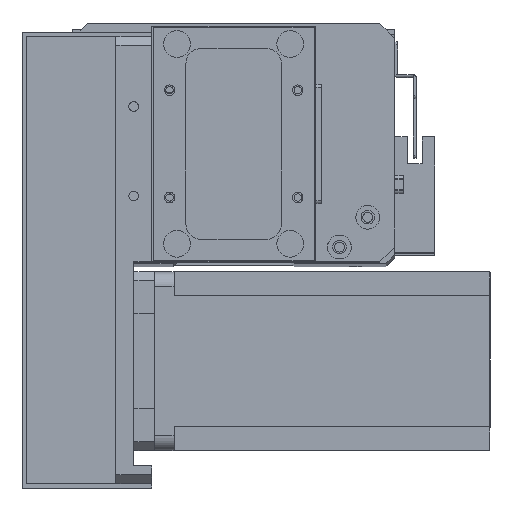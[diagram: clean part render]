
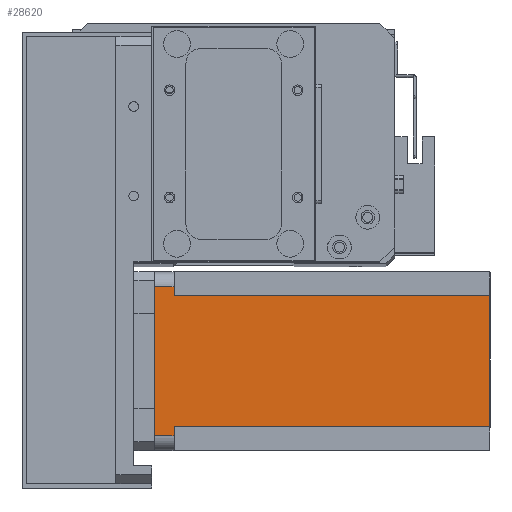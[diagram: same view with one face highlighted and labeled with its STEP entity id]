
A CAD part, top view. The second image highlights one B-rep face of the part: STEP entity #28620.
In plain terms, the highlighted planar face has unit normal (0, 0, 1) as drawn and (0, 1, 0) by its records, which use the part's own axes.
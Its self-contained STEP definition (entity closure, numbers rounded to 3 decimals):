
#254 = DIRECTION ( 'NONE',  ( 0., 0., -1. ) ) ;
#377 = VERTEX_POINT ( 'NONE', #18927 ) ;
#414 = ORIENTED_EDGE ( 'NONE', *, *, #17280, .T. ) ;
#557 = LINE ( 'NONE', #18042, #24228 ) ;
#1216 = DIRECTION ( 'NONE',  ( -1., 0., 0. ) ) ;
#1666 = DIRECTION ( 'NONE',  ( -1., 0., 0. ) ) ;
#1746 = CARTESIAN_POINT ( 'NONE',  ( 8., 60., -112.5 ) ) ;
#2201 = ORIENTED_EDGE ( 'NONE', *, *, #4189, .T. ) ;
#3113 = EDGE_CURVE ( 'NONE', #377, #14466, #21601, .T. ) ;
#3292 = VECTOR ( 'NONE', #20415, 1000. ) ;
#3813 = CARTESIAN_POINT ( 'NONE',  ( 52., 60., -112.5 ) ) ;
#3958 = VECTOR ( 'NONE', #15866, 1000. ) ;
#4189 = EDGE_CURVE ( 'NONE', #377, #28666, #24959, .T. ) ;
#4498 = ORIENTED_EDGE ( 'NONE', *, *, #27518, .F. ) ;
#4560 = DIRECTION ( 'NONE',  ( 0., 0., 1. ) ) ;
#5027 = CARTESIAN_POINT ( 'NONE',  ( 5., 60., -112.5 ) ) ;
#5323 = LINE ( 'NONE', #5027, #17375 ) ;
#6030 = CARTESIAN_POINT ( 'NONE',  ( 0., 60., -112.5 ) ) ;
#6077 = DIRECTION ( 'NONE',  ( 0., 0., 1. ) ) ;
#6394 = EDGE_CURVE ( 'NONE', #28976, #14466, #5323, .T. ) ;
#6965 = VECTOR ( 'NONE', #6077, 1000. ) ;
#7486 = VERTEX_POINT ( 'NONE', #10193 ) ;
#7996 = DIRECTION ( 'NONE',  ( 0., 1., 0. ) ) ;
#10193 = CARTESIAN_POINT ( 'NONE',  ( 52., 60., -6.5 ) ) ;
#13413 = ORIENTED_EDGE ( 'NONE', *, *, #3113, .F. ) ;
#13549 = CARTESIAN_POINT ( 'NONE',  ( 52., 60., -6.5 ) ) ;
#14257 = CARTESIAN_POINT ( 'NONE',  ( 8., 60., -112.5 ) ) ;
#14466 = VERTEX_POINT ( 'NONE', #25313 ) ;
#15866 = DIRECTION ( 'NONE',  ( 1., 0., 0. ) ) ;
#16273 = CARTESIAN_POINT ( 'NONE',  ( 5., 60., -6.5 ) ) ;
#16371 = LINE ( 'NONE', #13549, #3958 ) ;
#17197 = PLANE ( 'NONE',  #28733 ) ;
#17280 = EDGE_CURVE ( 'NONE', #20604, #28976, #557, .T. ) ;
#17349 = LINE ( 'NONE', #14257, #21093 ) ;
#17375 = VECTOR ( 'NONE', #4560, 1000. ) ;
#18003 = CARTESIAN_POINT ( 'NONE',  ( 8., 60., -6.5 ) ) ;
#18042 = CARTESIAN_POINT ( 'NONE',  ( 8., 60., -6.5 ) ) ;
#18560 = ORIENTED_EDGE ( 'NONE', *, *, #6394, .T. ) ;
#18666 = ORIENTED_EDGE ( 'NONE', *, *, #24586, .T. ) ;
#18803 = EDGE_CURVE ( 'NONE', #20604, #20038, #17349, .T. ) ;
#18815 = FACE_OUTER_BOUND ( 'NONE', #24404, .T. ) ;
#18927 = CARTESIAN_POINT ( 'NONE',  ( 55., 60., 0. ) ) ;
#19220 = VECTOR ( 'NONE', #22692, 1000. ) ;
#19234 = LINE ( 'NONE', #19912, #6965 ) ;
#19912 = CARTESIAN_POINT ( 'NONE',  ( 52., 60., -112.5 ) ) ;
#20038 = VERTEX_POINT ( 'NONE', #1746 ) ;
#20268 = LINE ( 'NONE', #6030, #26075 ) ;
#20415 = DIRECTION ( 'NONE',  ( -1., 0., 0. ) ) ;
#20604 = VERTEX_POINT ( 'NONE', #18003 ) ;
#21093 = VECTOR ( 'NONE', #254, 1000. ) ;
#21123 = ORIENTED_EDGE ( 'NONE', *, *, #18803, .F. ) ;
#21303 = VERTEX_POINT ( 'NONE', #3813 ) ;
#21563 = CARTESIAN_POINT ( 'NONE',  ( 0., 60., -112.5 ) ) ;
#21601 = LINE ( 'NONE', #22458, #3292 ) ;
#22458 = CARTESIAN_POINT ( 'NONE',  ( 0., 60., 0. ) ) ;
#22692 = DIRECTION ( 'NONE',  ( 0., 0., -1. ) ) ;
#23734 = DIRECTION ( 'NONE',  ( 0., 0., 1. ) ) ;
#23940 = ORIENTED_EDGE ( 'NONE', *, *, #26046, .F. ) ;
#24228 = VECTOR ( 'NONE', #1666, 1000. ) ;
#24404 = EDGE_LOOP ( 'NONE', ( #13413, #2201, #4498, #23940, #18666, #21123, #414, #18560 ) ) ;
#24586 = EDGE_CURVE ( 'NONE', #21303, #20038, #20268, .T. ) ;
#24836 = CARTESIAN_POINT ( 'NONE',  ( 55., 60., -112.5 ) ) ;
#24959 = LINE ( 'NONE', #24836, #19220 ) ;
#25313 = CARTESIAN_POINT ( 'NONE',  ( 5., 60., 0. ) ) ;
#26046 = EDGE_CURVE ( 'NONE', #21303, #7486, #19234, .T. ) ;
#26075 = VECTOR ( 'NONE', #1216, 1000. ) ;
#27518 = EDGE_CURVE ( 'NONE', #7486, #28666, #16371, .T. ) ;
#28385 = CARTESIAN_POINT ( 'NONE',  ( 55., 60., -6.5 ) ) ;
#28620 = ADVANCED_FACE ( 'NONE', ( #18815 ), #17197, .T. ) ;
#28666 = VERTEX_POINT ( 'NONE', #28385 ) ;
#28733 = AXIS2_PLACEMENT_3D ( 'NONE', #21563, #7996, #23734 ) ;
#28976 = VERTEX_POINT ( 'NONE', #16273 ) ;
